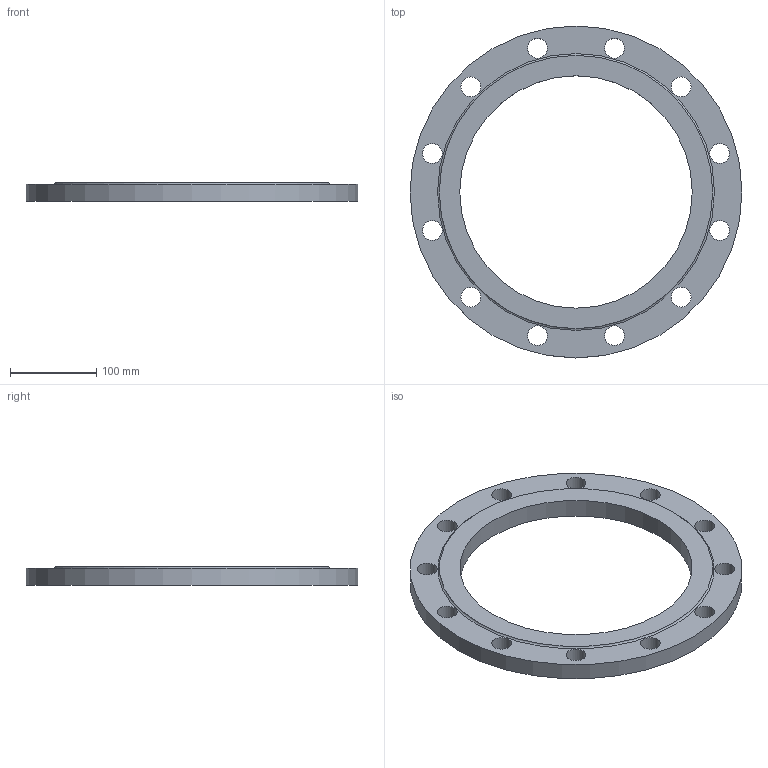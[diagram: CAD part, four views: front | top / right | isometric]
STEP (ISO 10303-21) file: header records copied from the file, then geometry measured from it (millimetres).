
FILE_DESCRIPTION(/* description */ (''),/* implementation_level */ '2;1');
FILE_NAME(/* name */ 'C:\Users\D\Documents\Inventor\HP\JIS\フランジ\JIS 5k sop rf\jis5k-sop-rf-250.stp',/* time_stamp */ '2024-09-12T17:02:44+09:00',/* author */ ('D'),/* organization */ (''),/* preprocessor_version */ 'ST-DEVELOPER v18',/* originating_system */ 'Autodesk Inventor 2020',/* authorisation */ '');
FILE_SCHEMA (('AUTOMOTIVE_DESIGN { 1 0 10303 214 3 1 1 }'));
Length unit declared in the file: millimetre
Products named in the file (1): jis5k-sop-rf-10
Bounding box: 385 x 385 x 22 mm (x, y, z)
Volume: 1132343.1 mm3; surface area: 170069.6 mm2
Topology: 1 solids, 1 shells, 18 faces, 50 edges, 35 vertices
Faces by surface type: cylinder 14, plane 3, torus 1
Full cylindrical faces by diameter (mm): 23 x12, 269.5 x1, 385 x1
Entity records: 703 total; most frequent: DIRECTION 124, CARTESIAN_POINT 104, ORIENTED_EDGE 100, AXIS2_PLACEMENT_3D 55, EDGE_CURVE 50, EDGE_LOOP 45, CIRCLE 36, VERTEX_POINT 35
